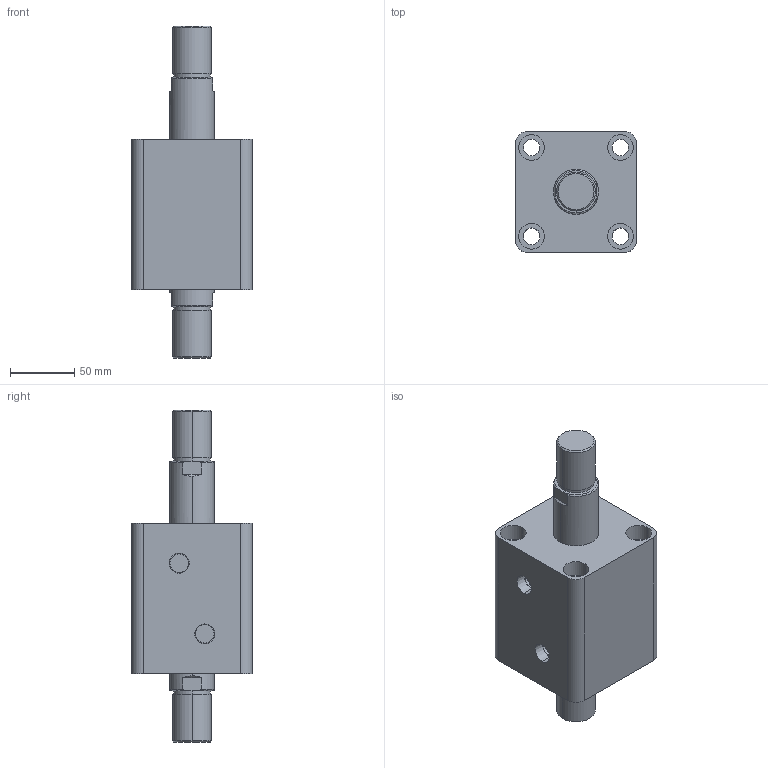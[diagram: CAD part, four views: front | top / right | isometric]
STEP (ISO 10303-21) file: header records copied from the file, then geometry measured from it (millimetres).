
FILE_DESCRIPTION (( 'STEP AP203' ), '1' );
FILE_NAME ('HTB-SW63-35W.STEP', '2019-10-07T10:04:19', ( '微软用户' ), ( '微软中国' ), 'SwSTEP 2.0', 'SolidWorks 2012', '' );
FILE_SCHEMA (( 'CONFIG_CONTROL_DESIGN' ));
Length unit declared in the file: millimetre
Products named in the file (3): HTB-SW63-35W; HTB-SW63-35W活塞杆; HTB-SW63-35掛极
Assembly tree (2 placements, depth 2):
  HTB-SW63-35W
    HTB-SW63-35掛极
    HTB-SW63-35W活塞杆
Bounding box: 94 x 94 x 258 mm (x, y, z)
Volume: 979483.7 mm3; surface area: 136037.8 mm2
Topology: 2 solids, 2 shells, 108 faces, 240 edges, 156 vertices
Faces by surface type: cylinder 52, plane 36, torus 12, cone 8
Entity records: 3465 total; most frequent: CARTESIAN_POINT 645, DIRECTION 586, ORIENTED_EDGE 480, AXIS2_PLACEMENT_3D 249, EDGE_CURVE 240, VERTEX_POINT 156, EDGE_LOOP 138, CIRCLE 136
